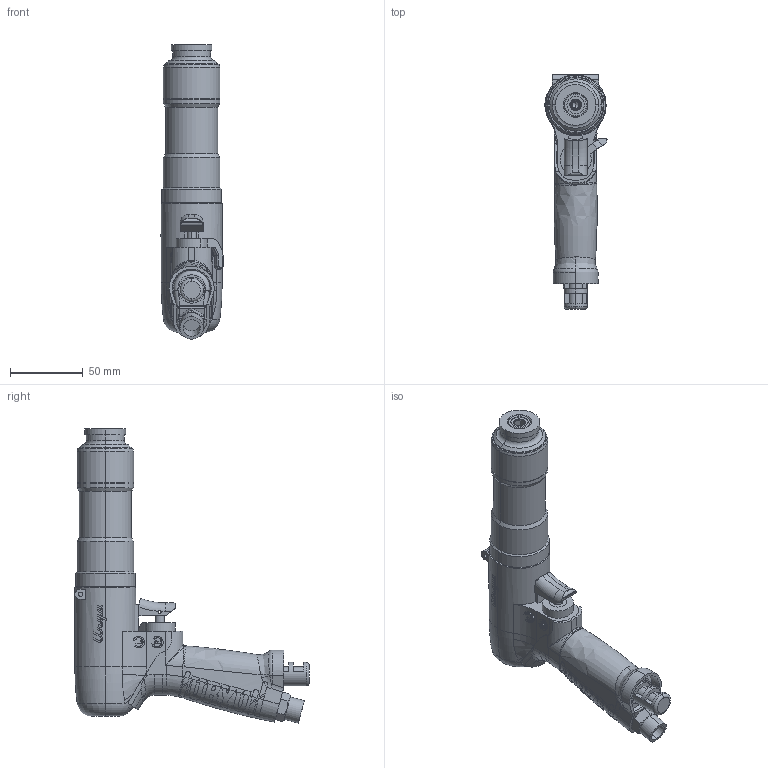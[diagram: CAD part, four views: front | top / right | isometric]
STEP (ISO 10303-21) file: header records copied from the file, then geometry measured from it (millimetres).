
FILE_DESCRIPTION (( 'STEP AP203' ), '1' );
FILE_NAME ('US-LT51PB-05.STEP', '2006-03-22T04:22:40', ( '' ), ( '' ), 'SwSTEP 2.0', 'SolidWorks 2003240', '' );
FILE_SCHEMA (( 'CONFIG_CONTROL_DESIGN' ));
Length unit declared in the file: millimetre
Products named in the file (9): 4443194_US-LT51PB-05_蹬怮椔; 1771075_US-LT51PB-05_蹬怮椔; 9810020_US-LT51PB-05_蹬怮椔; 1748428_US-LT51PB-05_蹬怮椔; US-LT51PB-05; 4445674_US-LT51PB-05_蹬怮椔; 4443698_US-LT51PB-05_蹬怮椔; 4450259_US-LT51PB-05_蹬怮椔; 4802128_US-LT51PB-05_蹬怮椔
Assembly tree (8 placements, depth 2):
  US-LT51PB-05
    4802128_US-LT51PB-05_蹬怮椔
    4450259_US-LT51PB-05_蹬怮椔
    4443698_US-LT51PB-05_蹬怮椔
    1771075_US-LT51PB-05_蹬怮椔
    9810020_US-LT51PB-05_蹬怮椔
    1748428_US-LT51PB-05_蹬怮椔
    4443194_US-LT51PB-05_蹬怮椔
    4445674_US-LT51PB-05_蹬怮椔
Bounding box: 42.87 x 161.5 x 202.8 mm (x, y, z)
Volume: 350720.3 mm3; surface area: 73892.4 mm2
Topology: 8 solids, 8 shells, 1260 faces, 3411 edges, 2207 vertices
Faces by surface type: plane 619, bspline 299, cylinder 271, cone 40, torus 29, sphere 2
Entity records: 151744 total; most frequent: CARTESIAN_POINT 123431, ORIENTED_EDGE 6792, DIRECTION 4057, EDGE_CURVE 3396, VERTEX_POINT 2204, B_SPLINE_CURVE_WITH_KNOTS 1495, AXIS2_PLACEMENT_3D 1438, EDGE_LOOP 1322
